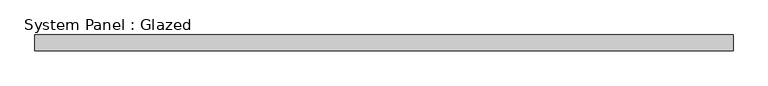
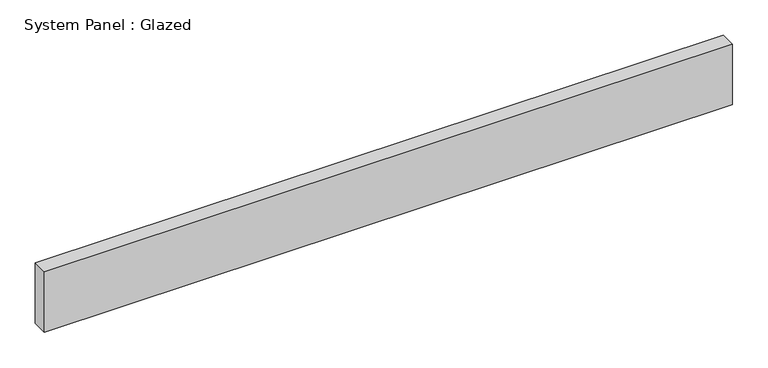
"""IFC4 building model written with IfcOpenShell, lengths in millimetres: plate geometry, System Panel : Glazed."""

from ifc_helpers import new_model, si_unit, origin, origin_with_axes, place, context, project, spatial, polyline, outline, extrude, source, transform, mapped, element, save


def system_panel_glazed_a7e6577e(model_context):
    return source(origin(), model_context, "Body", "SweptSolid", [
        extrude(outline(polyline([(561.975, 19.05), (-561.975, 19.05), (-561.975, 44.45), (561.975, 44.45), (561.975, 19.05)])), origin_with_axes(), (0.0, 0.0, 1.0), 104.775),
    ])


if __name__ == "__main__":
    model = new_model("IFC4")
    model_context = context("Model", 3, world=origin())
    ifc_project = project(units=[si_unit("LENGTHUNIT", "METRE", prefix="MILLI")], contexts=[model_context])
    site = spatial("IfcSite", under=ifc_project)
    building = spatial("IfcBuilding", under=site)
    placement = place(None, origin())
    system_panel_glazed_shape = system_panel_glazed_a7e6577e(model_context)
    element("IfcPlate", 1, ObjectType="System Panel : Glazed", at=placement, inside=building, context=model_context, shape_type="MappedRepresentation", body=[
        mapped(system_panel_glazed_shape, transform((0.0, 0.0, 0.0), x_axis=(1.0, 0.0, 0.0), y_axis=(0.0, 1.0, 0.0), z_axis=(0.0, 0.0, 1.0))),
    ])
    save(model, "model.ifc")
